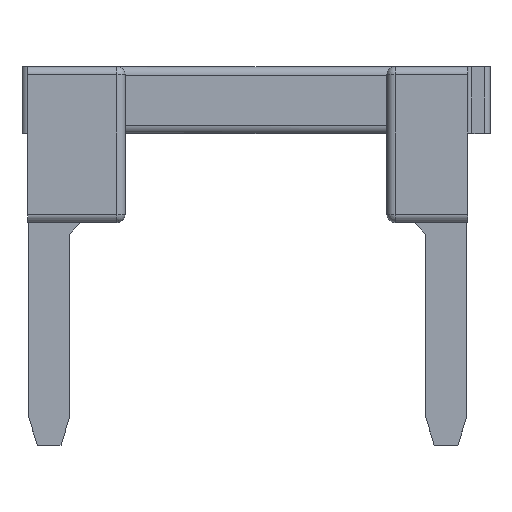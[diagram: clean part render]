
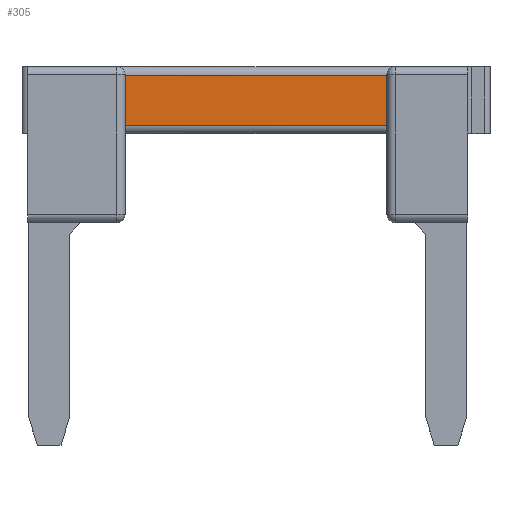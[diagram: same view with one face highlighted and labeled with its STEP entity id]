
A CAD part, top view. The second image highlights one B-rep face of the part: STEP entity #305.
In plain terms, the highlighted planar face has unit normal (0, 0, 1).
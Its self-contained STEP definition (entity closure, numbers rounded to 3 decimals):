
#89=FACE_OUTER_BOUND('',#492,.T.);
#305=ADVANCED_FACE('',(#89),#386,.T.);
#386=PLANE('',#1895);
#492=EDGE_LOOP('',(#740,#741,#742,#743));
#740=ORIENTED_EDGE('',*,*,#1347,.T.);
#741=ORIENTED_EDGE('',*,*,#1343,.F.);
#742=ORIENTED_EDGE('',*,*,#1348,.T.);
#743=ORIENTED_EDGE('',*,*,#1349,.F.);
#1144=VERTEX_POINT('',#2782);
#1147=VERTEX_POINT('',#2789);
#1150=VERTEX_POINT('',#2802);
#1151=VERTEX_POINT('',#2804);
#1343=EDGE_CURVE('',#1144,#1147,#1552,.T.);
#1347=EDGE_CURVE('',#1150,#1147,#1556,.T.);
#1348=EDGE_CURVE('',#1144,#1151,#1557,.T.);
#1349=EDGE_CURVE('',#1150,#1151,#1558,.T.);
#1552=LINE('',#2793,#1719);
#1556=LINE('',#2801,#1723);
#1557=LINE('',#2803,#1724);
#1558=LINE('',#2805,#1725);
#1719=VECTOR('',#2226,1.);
#1723=VECTOR('',#2234,1.);
#1724=VECTOR('',#2235,1.);
#1725=VECTOR('',#2236,1.);
#1895=AXIS2_PLACEMENT_3D('',#2806,#2237,#2238);
#2226=DIRECTION('',(0.,1.,0.));
#2234=DIRECTION('',(-1.,0.,0.));
#2235=DIRECTION('',(1.,0.,0.));
#2236=DIRECTION('',(0.,-1.,0.));
#2237=DIRECTION('',(0.,0.,1.));
#2238=DIRECTION('',(1.,0.,0.));
#2782=CARTESIAN_POINT('',(-8.325,-5.,-1.475));
#2789=CARTESIAN_POINT('',(-8.325,-3.2,-1.475));
#2793=CARTESIAN_POINT('',(-8.325,-4.,-1.475));
#2801=CARTESIAN_POINT('',(12.625,-3.2,-1.475));
#2802=CARTESIAN_POINT('',(1.075,-3.2,-1.475));
#2803=CARTESIAN_POINT('',(1.9,-5.,-1.475));
#2804=CARTESIAN_POINT('',(1.075,-5.,-1.475));
#2805=CARTESIAN_POINT('',(1.075,-4.,-1.475));
#2806=CARTESIAN_POINT('',(1.9,-4.,-1.475));
